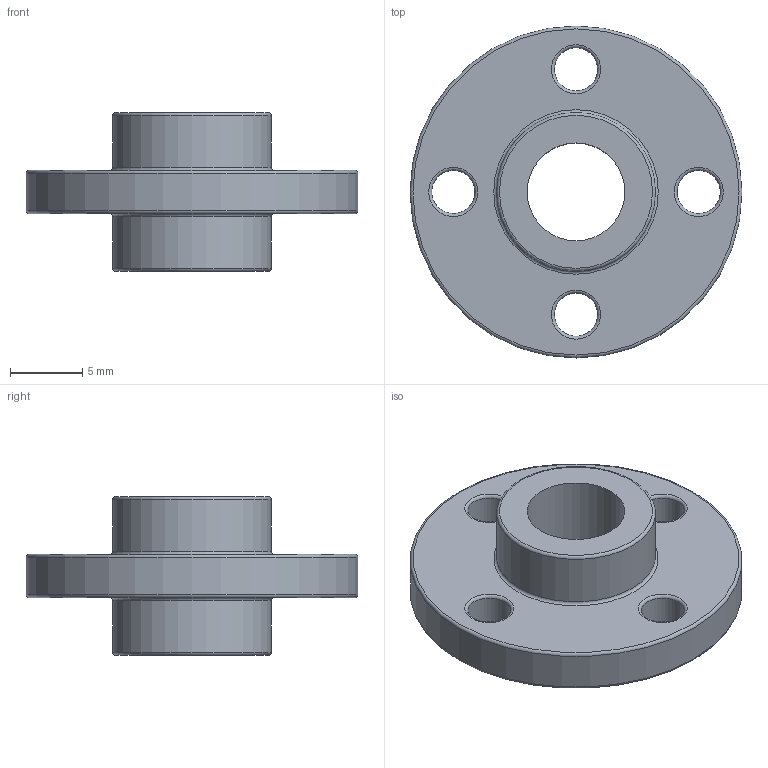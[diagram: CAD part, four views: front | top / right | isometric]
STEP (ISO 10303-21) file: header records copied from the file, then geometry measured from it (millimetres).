
FILE_DESCRIPTION(/* description */ (''),/* implementation_level */ '2;1');
FILE_NAME(/* name */ 'C:/Users/Rasika Jadhav/Downloads/Mission 2 FLoatSat/ring v3.step',/* time_stamp */ '2022-05-16T03:09:44+02:00',/* author */ (''),/* organization */ (''),/* preprocessor_version */ 'ST-DEVELOPER v18.1',/* originating_system */ 'Autodesk Translation Framework v10.14.0.1471',/* authorisation */ '');
FILE_SCHEMA (('AUTOMOTIVE_DESIGN { 1 0 10303 214 3 1 1 }'));
Length unit declared in the file: millimetre
Products named in the file (1): ring
Bounding box: 23 x 23 x 11 mm (x, y, z)
Volume: 1522.7 mm3; surface area: 1510.4 mm2
Topology: 1 solids, 1 shells, 27 faces, 59 edges, 36 vertices
Faces by surface type: torus 15, cylinder 8, plane 4
Full cylindrical faces by diameter (mm): 3 x4, 6.779 x1, 11 x2, 23 x1
Entity records: 824 total; most frequent: DIRECTION 166, CARTESIAN_POINT 123, ORIENTED_EDGE 118, AXIS2_PLACEMENT_3D 79, EDGE_CURVE 59, CIRCLE 51, EDGE_LOOP 39, VERTEX_POINT 36
